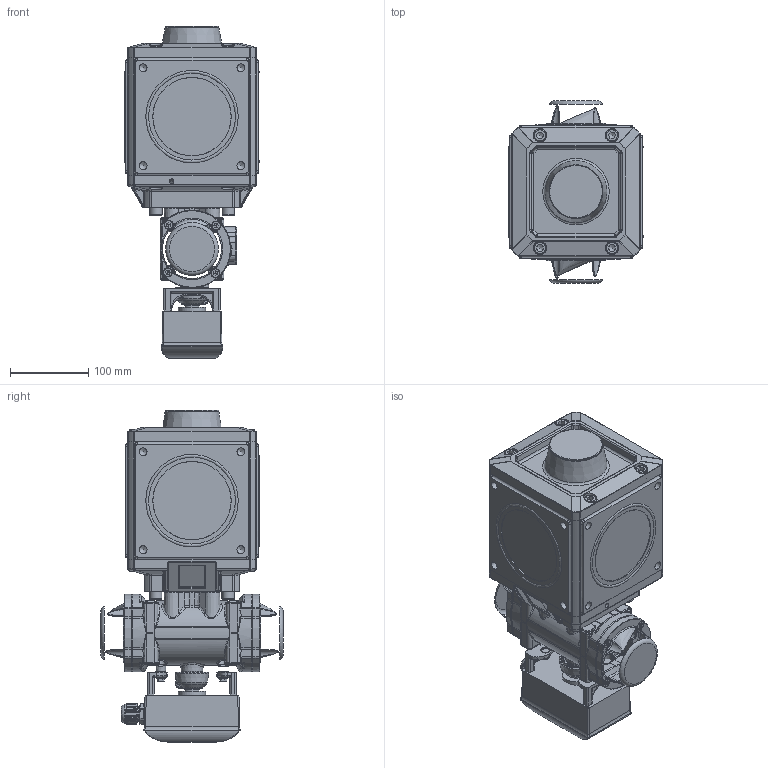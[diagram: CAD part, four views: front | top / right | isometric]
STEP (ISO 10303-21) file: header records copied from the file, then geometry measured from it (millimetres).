
FILE_DESCRIPTION(/* description */ (''),/* implementation_level */ '2;1');
FILE_NAME(/* name */ 'E:\WorkSpace\Designs\1700\1700060.stp',/* time_stamp */ '2022-05-25T09:50:12+02:00',/* author */ ('JJ'),/* organization */ (''),/* preprocessor_version */ 'ST-DEVELOPER v18.1',/* originating_system */ 'Autodesk Inventor 2022',/* authorisation */ '');
FILE_SCHEMA (('AUTOMOTIVE_DESIGN { 1 0 10303 214 3 1 1 }'));
Products named in the file (1): 1700060
Bounding box: 171.78 x 232.5 x 424.1 mm (x, y, z)
Volume: 7275464.8 mm3; surface area: 403525.9 mm2
Topology: 1 solids, 1 shells, 2715 faces, 6719 edges, 4001 vertices
Faces by surface type: cylinder 766, plane 757, bspline 480, torus 349, cone 301, sphere 62
Full cylindrical faces by diameter (mm): 4 x2, 4.33 x4, 6 x1, 6.4 x4, 8.5 x2, 10.106 x32, 13.3 x4, 14.9 x1, 16 x12, 17 x8, 17.9 x1, 19 x1, 20 x1, 20.2 x1, 21.8 x1, 22 x1, 23 x1, 24 x2, 26.4 x1, 35 x1, 68 x1, 74.7 x1, 100 x4
Entity records: 135682 total; most frequent: CARTESIAN_POINT 71907, ORIENTED_EDGE 13264, DIRECTION 12434, EDGE_CURVE 6632, AXIS2_PLACEMENT_3D 4956, VERTEX_POINT 4001, EDGE_LOOP 2851, FACE_OUTER_BOUND 2715
